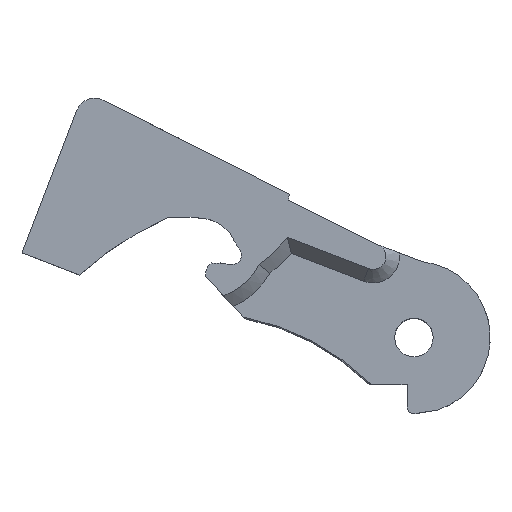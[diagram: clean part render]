
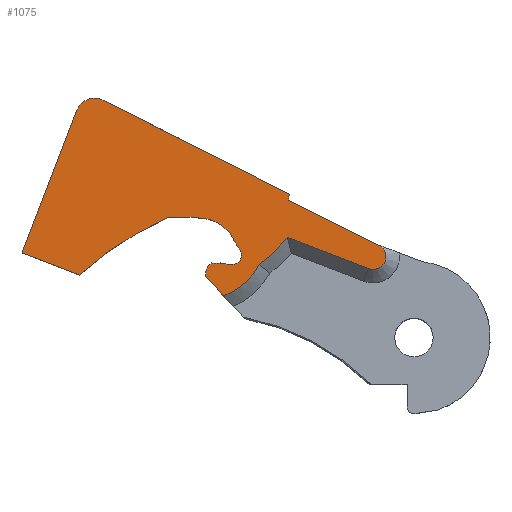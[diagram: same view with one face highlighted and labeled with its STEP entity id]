
A CAD part, top view. The second image highlights one B-rep face of the part: STEP entity #1075.
In plain terms, the highlighted planar face has unit normal (0, 0, 1).
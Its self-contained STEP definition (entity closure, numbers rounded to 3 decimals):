
#57=PLANE('',#1160);
#81=FACE_OUTER_BOUND('',#144,.T.);
#144=EDGE_LOOP('',(#719,#720,#721,#722,#723,#724,#725,#726,#727,#728,#729,
#730,#731,#732,#733,#734,#735,#736,#737,#738,#739));
#214=LINE('',#1654,#288);
#215=LINE('',#1658,#289);
#216=LINE('',#1660,#290);
#217=LINE('',#1680,#291);
#218=LINE('',#1686,#292);
#219=LINE('',#1690,#293);
#220=LINE('',#1693,#294);
#288=VECTOR('',#1305,10.);
#289=VECTOR('',#1308,10.);
#290=VECTOR('',#1309,10.);
#291=VECTOR('',#1328,10.);
#292=VECTOR('',#1333,10.);
#293=VECTOR('',#1336,10.);
#294=VECTOR('',#1339,10.);
#363=CIRCLE('',#1161,2.);
#364=CIRCLE('',#1162,34.393);
#365=CIRCLE('',#1163,16.437);
#366=CIRCLE('',#1164,4.);
#367=CIRCLE('',#1165,15.);
#368=CIRCLE('',#1166,0.925);
#369=CIRCLE('',#1167,3.955);
#370=CIRCLE('',#1168,0.795);
#371=CIRCLE('',#1169,2.134);
#372=CIRCLE('',#1170,1.664);
#373=CIRCLE('',#1171,6.598);
#374=CIRCLE('',#1172,17.055);
#375=CIRCLE('',#1173,1.322);
#376=CIRCLE('',#1174,1.524);
#439=VERTEX_POINT('',#1652);
#440=VERTEX_POINT('',#1653);
#441=VERTEX_POINT('',#1655);
#442=VERTEX_POINT('',#1657);
#443=VERTEX_POINT('',#1659);
#444=VERTEX_POINT('',#1661);
#445=VERTEX_POINT('',#1663);
#446=VERTEX_POINT('',#1665);
#447=VERTEX_POINT('',#1667);
#448=VERTEX_POINT('',#1669);
#449=VERTEX_POINT('',#1671);
#450=VERTEX_POINT('',#1673);
#451=VERTEX_POINT('',#1675);
#452=VERTEX_POINT('',#1677);
#453=VERTEX_POINT('',#1679);
#454=VERTEX_POINT('',#1681);
#455=VERTEX_POINT('',#1683);
#456=VERTEX_POINT('',#1685);
#457=VERTEX_POINT('',#1687);
#458=VERTEX_POINT('',#1689);
#459=VERTEX_POINT('',#1691);
#550=EDGE_CURVE('',#439,#440,#214,.T.);
#551=EDGE_CURVE('',#441,#439,#363,.T.);
#552=EDGE_CURVE('',#441,#442,#215,.T.);
#553=EDGE_CURVE('',#442,#443,#216,.T.);
#554=EDGE_CURVE('',#443,#444,#364,.T.);
#555=EDGE_CURVE('',#444,#445,#365,.T.);
#556=EDGE_CURVE('',#445,#446,#366,.F.);
#557=EDGE_CURVE('',#447,#446,#367,.T.);
#558=EDGE_CURVE('',#447,#448,#368,.T.);
#559=EDGE_CURVE('',#448,#449,#369,.T.);
#560=EDGE_CURVE('',#449,#450,#370,.T.);
#561=EDGE_CURVE('',#450,#451,#371,.T.);
#562=EDGE_CURVE('',#451,#452,#372,.T.);
#563=EDGE_CURVE('',#452,#453,#217,.T.);
#564=EDGE_CURVE('',#453,#454,#373,.T.);
#565=EDGE_CURVE('',#454,#455,#374,.T.);
#566=EDGE_CURVE('',#456,#455,#218,.T.);
#567=EDGE_CURVE('',#457,#456,#375,.T.);
#568=EDGE_CURVE('',#457,#458,#219,.T.);
#569=EDGE_CURVE('',#458,#459,#376,.T.);
#570=EDGE_CURVE('',#459,#440,#220,.T.);
#719=ORIENTED_EDGE('',*,*,#550,.F.);
#720=ORIENTED_EDGE('',*,*,#551,.F.);
#721=ORIENTED_EDGE('',*,*,#552,.T.);
#722=ORIENTED_EDGE('',*,*,#553,.T.);
#723=ORIENTED_EDGE('',*,*,#554,.T.);
#724=ORIENTED_EDGE('',*,*,#555,.T.);
#725=ORIENTED_EDGE('',*,*,#556,.T.);
#726=ORIENTED_EDGE('',*,*,#557,.F.);
#727=ORIENTED_EDGE('',*,*,#558,.T.);
#728=ORIENTED_EDGE('',*,*,#559,.T.);
#729=ORIENTED_EDGE('',*,*,#560,.T.);
#730=ORIENTED_EDGE('',*,*,#561,.T.);
#731=ORIENTED_EDGE('',*,*,#562,.T.);
#732=ORIENTED_EDGE('',*,*,#563,.T.);
#733=ORIENTED_EDGE('',*,*,#564,.T.);
#734=ORIENTED_EDGE('',*,*,#565,.T.);
#735=ORIENTED_EDGE('',*,*,#566,.F.);
#736=ORIENTED_EDGE('',*,*,#567,.F.);
#737=ORIENTED_EDGE('',*,*,#568,.T.);
#738=ORIENTED_EDGE('',*,*,#569,.T.);
#739=ORIENTED_EDGE('',*,*,#570,.T.);
#1075=ADVANCED_FACE('',(#81),#57,.T.);
#1160=AXIS2_PLACEMENT_3D('',#1651,#1303,#1304);
#1161=AXIS2_PLACEMENT_3D('',#1656,#1306,#1307);
#1162=AXIS2_PLACEMENT_3D('',#1662,#1310,#1311);
#1163=AXIS2_PLACEMENT_3D('',#1664,#1312,#1313);
#1164=AXIS2_PLACEMENT_3D('',#1666,#1314,#1315);
#1165=AXIS2_PLACEMENT_3D('',#1668,#1316,#1317);
#1166=AXIS2_PLACEMENT_3D('',#1670,#1318,#1319);
#1167=AXIS2_PLACEMENT_3D('',#1672,#1320,#1321);
#1168=AXIS2_PLACEMENT_3D('',#1674,#1322,#1323);
#1169=AXIS2_PLACEMENT_3D('',#1676,#1324,#1325);
#1170=AXIS2_PLACEMENT_3D('',#1678,#1326,#1327);
#1171=AXIS2_PLACEMENT_3D('',#1682,#1329,#1330);
#1172=AXIS2_PLACEMENT_3D('',#1684,#1331,#1332);
#1173=AXIS2_PLACEMENT_3D('',#1688,#1334,#1335);
#1174=AXIS2_PLACEMENT_3D('',#1692,#1337,#1338);
#1303=DIRECTION('center_axis',(0.,0.,1.));
#1304=DIRECTION('ref_axis',(1.,0.,0.));
#1305=DIRECTION('',(0.893,-0.45,0.));
#1306=DIRECTION('center_axis',(0.,0.,-1.));
#1307=DIRECTION('ref_axis',(-0.361,0.933,0.));
#1308=DIRECTION('',(-0.358,-0.934,0.));
#1309=DIRECTION('',(0.934,-0.358,0.));
#1310=DIRECTION('center_axis',(0.,0.,-1.));
#1311=DIRECTION('ref_axis',(0.41,-0.912,0.));
#1312=DIRECTION('center_axis',(0.,0.,-1.));
#1313=DIRECTION('ref_axis',(0.255,0.967,0.));
#1314=DIRECTION('center_axis',(0.,0.,1.));
#1315=DIRECTION('ref_axis',(-0.885,-0.466,0.));
#1316=DIRECTION('center_axis',(0.,0.,-1.));
#1317=DIRECTION('ref_axis',(-0.869,-0.494,0.));
#1318=DIRECTION('center_axis',(0.,0.,-1.));
#1319=DIRECTION('ref_axis',(-0.02,1.,0.));
#1320=DIRECTION('center_axis',(0.,0.,-1.));
#1321=DIRECTION('ref_axis',(0.204,0.979,0.));
#1322=DIRECTION('center_axis',(0.,0.,-1.));
#1323=DIRECTION('ref_axis',(0.387,0.922,0.));
#1324=DIRECTION('center_axis',(0.,0.,-1.));
#1325=DIRECTION('ref_axis',(0.215,0.977,0.));
#1326=DIRECTION('center_axis',(0.,0.,1.));
#1327=DIRECTION('ref_axis',(-0.654,0.757,0.));
#1328=DIRECTION('',(0.684,-0.729,0.));
#1329=DIRECTION('center_axis',(0.,0.,1.));
#1330=DIRECTION('ref_axis',(0.338,-0.941,0.));
#1331=DIRECTION('center_axis',(0.,0.,1.));
#1332=DIRECTION('ref_axis',(0.604,-0.797,0.));
#1333=DIRECTION('',(-0.934,0.358,0.));
#1334=DIRECTION('center_axis',(0.,0.,-1.));
#1335=DIRECTION('ref_axis',(0.358,0.934,0.));
#1336=DIRECTION('',(-0.895,0.445,0.));
#1337=DIRECTION('center_axis',(0.,0.,-1.));
#1338=DIRECTION('ref_axis',(0.934,-0.358,0.));
#1339=DIRECTION('',(0.358,0.934,0.));
#1651=CARTESIAN_POINT('Origin',(-25.059,13.756,3.813));
#1652=CARTESIAN_POINT('',(-32.068,24.499,3.813));
#1653=CARTESIAN_POINT('',(-12.818,14.805,3.813));
#1654=CARTESIAN_POINT('',(-26.877,21.884,3.813));
#1655=CARTESIAN_POINT('',(-34.835,23.429,3.813));
#1656=CARTESIAN_POINT('Origin',(-32.967,22.713,3.813));
#1657=CARTESIAN_POINT('',(-40.475,8.735,3.813));
#1658=CARTESIAN_POINT('',(-34.467,24.386,3.813));
#1659=CARTESIAN_POINT('',(-34.514,6.447,3.813));
#1660=CARTESIAN_POINT('',(-40.863,8.884,3.813));
#1661=CARTESIAN_POINT('',(-25.483,12.371,3.813));
#1662=CARTESIAN_POINT('Origin',(-11.369,-18.993,3.813));
#1663=CARTESIAN_POINT('',(-21.634,12.282,3.813));
#1664=CARTESIAN_POINT('Origin',(-23.936,-3.993,3.813));
#1665=CARTESIAN_POINT('',(-18.655,10.185,3.813));
#1666=CARTESIAN_POINT('Origin',(-22.194,8.321,3.813));
#1667=CARTESIAN_POINT('',(-17.962,9.002,3.813));
#1668=CARTESIAN_POINT('Origin',(-5.383,17.174,3.813));
#1669=CARTESIAN_POINT('',(-18.719,7.574,3.813));
#1670=CARTESIAN_POINT('Origin',(-18.737,8.498,3.813));
#1671=CARTESIAN_POINT('',(-19.765,7.65,3.813));
#1672=CARTESIAN_POINT('Origin',(-18.957,11.521,3.813));
#1673=CARTESIAN_POINT('',(-20.022,7.71,3.813));
#1674=CARTESIAN_POINT('Origin',(-19.715,8.444,3.813));
#1675=CARTESIAN_POINT('',(-20.941,7.71,3.813));
#1676=CARTESIAN_POINT('Origin',(-20.482,9.794,3.813));
#1677=CARTESIAN_POINT('',(-21.508,6.279,3.813));
#1678=CARTESIAN_POINT('Origin',(-19.853,6.451,3.813));
#1679=CARTESIAN_POINT('',(-19.65,4.297,3.813));
#1680=CARTESIAN_POINT('',(-21.508,6.279,3.813));
#1681=CARTESIAN_POINT('',(-15.987,7.542,3.813));
#1682=CARTESIAN_POINT('Origin',(-21.882,10.506,3.813));
#1683=CARTESIAN_POINT('',(-13.078,10.349,3.813));
#1684=CARTESIAN_POINT('Origin',(-26.29,21.133,3.813));
#1685=CARTESIAN_POINT('',(-4.688,7.128,3.813));
#1686=CARTESIAN_POINT('',(-4.688,7.128,3.813));
#1687=CARTESIAN_POINT('',(-3.74,9.598,3.813));
#1688=CARTESIAN_POINT('Origin',(-4.214,8.363,3.813));
#1689=CARTESIAN_POINT('',(-12.949,14.18,3.813));
#1690=CARTESIAN_POINT('',(-3.74,9.598,3.813));
#1691=CARTESIAN_POINT('',(-12.848,14.726,3.813));
#1692=CARTESIAN_POINT('Origin',(-11.425,14.18,3.813));
#1693=CARTESIAN_POINT('',(-12.848,14.726,3.813));
